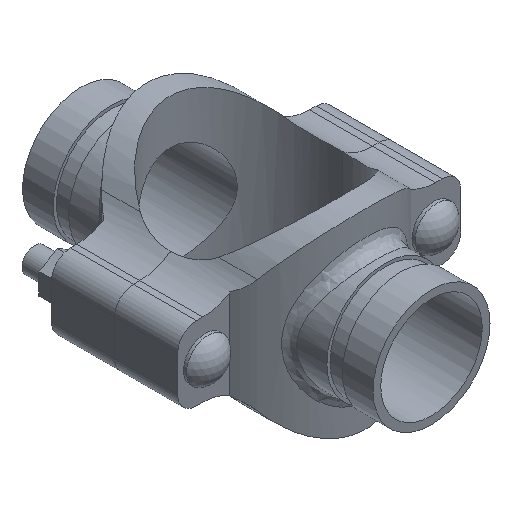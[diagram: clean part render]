
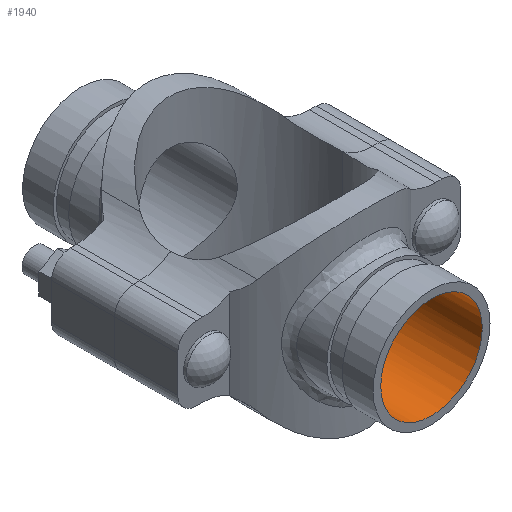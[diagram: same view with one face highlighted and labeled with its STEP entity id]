
A CAD part, isometric view. The second image highlights one B-rep face of the part: STEP entity #1940.
In plain terms, the highlighted cylindrical face has radius 26.194 mm (diameter 52.387 mm), a full revolution.
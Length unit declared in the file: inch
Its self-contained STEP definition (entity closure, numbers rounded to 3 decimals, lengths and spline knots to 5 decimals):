
#48=B_SPLINE_CURVE_WITH_KNOTS('',3,(#3844,#3845,#3846,#3847,#3848,#3849,
#3850,#3851,#3852,#3853,#3854,#3855,#3856,#3857,#3858,#3859,#3860,#3861,
#3862,#3863,#3864,#3865,#3866,#3867,#3868,#3869,#3870,#3871,#3872,#3873,
#3874,#3875,#3876,#3877,#3878,#3879,#3880,#3881,#3882,#3883,#3884,#3885,
#3886,#3887,#3888,#3889,#3890,#3891,#3892,#3893,#3894,#3895,#3896,#3897,
#3898,#3899,#3900,#3901,#3902,#3903,#3904,#3905,#3906,#3907,#3908,#3909),
 .UNSPECIFIED.,.T.,.F.,(4,2,2,2,2,2,2,2,2,2,2,2,2,2,2,2,2,2,2,2,2,2,2,2,
2,2,2,2,2,2,2,2,4),(0.,0.50978,1.01955,1.52933,
2.03911,2.54587,3.05263,3.5594,4.06616,
4.57293,5.07969,5.58646,6.09322,6.603,
7.11278,7.62255,8.13233,8.6421,9.15188,
9.66166,10.17143,10.6782,11.18496,11.69173,
12.19849,12.70526,13.21202,13.71879,14.22555,
14.73533,15.2451,15.75488,16.26466),
 .UNSPECIFIED.);
#91=CYLINDRICAL_SURFACE('',#2169,1.03125);
#206=FACE_OUTER_BOUND('',#326,.T.);
#326=EDGE_LOOP('',(#1552,#1553,#1554,#1555));
#474=LINE('',#3843,#620);
#620=VECTOR('',#2620,1.03125);
#716=CIRCLE('',#2170,1.03125);
#877=VERTEX_POINT('',#3840);
#878=VERTEX_POINT('',#3842);
#1116=EDGE_CURVE('',#877,#877,#716,.T.);
#1117=EDGE_CURVE('',#877,#878,#474,.T.);
#1118=EDGE_CURVE('',#878,#878,#48,.T.);
#1552=ORIENTED_EDGE('',*,*,#1116,.F.);
#1553=ORIENTED_EDGE('',*,*,#1117,.T.);
#1554=ORIENTED_EDGE('',*,*,#1118,.F.);
#1555=ORIENTED_EDGE('',*,*,#1117,.F.);
#1940=ADVANCED_FACE('',(#206),#91,.F.);
#2169=AXIS2_PLACEMENT_3D('',#3839,#2616,#2617);
#2170=AXIS2_PLACEMENT_3D('',#3841,#2618,#2619);
#2616=DIRECTION('center_axis',(0.,-1.,0.));
#2617=DIRECTION('ref_axis',(-1.,0.,0.));
#2618=DIRECTION('center_axis',(0.,-1.,0.));
#2619=DIRECTION('ref_axis',(-1.,0.,0.));
#2620=DIRECTION('',(0.,-1.,0.));
#3839=CARTESIAN_POINT('Origin',(0.,3.56,0.));
#3840=CARTESIAN_POINT('',(1.03125,3.56,0.));
#3841=CARTESIAN_POINT('Origin',(0.,3.56,0.));
#3842=CARTESIAN_POINT('',(1.03125,1.41387,0.));
#3843=CARTESIAN_POINT('',(1.03125,3.56,0.));
#3844=CARTESIAN_POINT('Ctrl Pts',(1.03125,1.41387,0.));
#3845=CARTESIAN_POINT('Ctrl Pts',(1.03125,1.41387,-0.0669));
#3846=CARTESIAN_POINT('Ctrl Pts',(1.02464,1.41876,-0.13527));
#3847=CARTESIAN_POINT('Ctrl Pts',(0.99766,1.43786,-0.26993));
#3848=CARTESIAN_POINT('Ctrl Pts',(0.9773,1.45202,-0.33622));
#3849=CARTESIAN_POINT('Ctrl Pts',(0.92428,1.48634,-0.46246));
#3850=CARTESIAN_POINT('Ctrl Pts',(0.89157,1.50647,-0.52254));
#3851=CARTESIAN_POINT('Ctrl Pts',(0.81654,1.54842,-0.63341));
#3852=CARTESIAN_POINT('Ctrl Pts',(0.7742,1.57021,-0.6842));
#3853=CARTESIAN_POINT('Ctrl Pts',(0.68447,1.61134,-0.77394));
#3854=CARTESIAN_POINT('Ctrl Pts',(0.63382,1.63225,-0.81623));
#3855=CARTESIAN_POINT('Ctrl Pts',(0.52291,1.67108,-0.89136));
#3856=CARTESIAN_POINT('Ctrl Pts',(0.46265,1.68899,-0.9242));
#3857=CARTESIAN_POINT('Ctrl Pts',(0.33601,1.71867,-0.97739));
#3858=CARTESIAN_POINT('Ctrl Pts',(0.26952,1.73045,-0.99778));
#3859=CARTESIAN_POINT('Ctrl Pts',(0.13476,1.74612,-1.02471));
#3860=CARTESIAN_POINT('Ctrl Pts',(0.0665,1.75,-1.03125));
#3861=CARTESIAN_POINT('Ctrl Pts',(-0.0665,1.75,-1.03125));
#3862=CARTESIAN_POINT('Ctrl Pts',(-0.13476,1.74612,-1.02471));
#3863=CARTESIAN_POINT('Ctrl Pts',(-0.26952,1.73045,-0.99778));
#3864=CARTESIAN_POINT('Ctrl Pts',(-0.33601,1.71867,-0.97739));
#3865=CARTESIAN_POINT('Ctrl Pts',(-0.46265,1.68899,-0.9242));
#3866=CARTESIAN_POINT('Ctrl Pts',(-0.52291,1.67108,-0.89136));
#3867=CARTESIAN_POINT('Ctrl Pts',(-0.63382,1.63225,-0.81623));
#3868=CARTESIAN_POINT('Ctrl Pts',(-0.68447,1.61134,-0.77394));
#3869=CARTESIAN_POINT('Ctrl Pts',(-0.7742,1.57021,-0.6842));
#3870=CARTESIAN_POINT('Ctrl Pts',(-0.81654,1.54842,-0.63341));
#3871=CARTESIAN_POINT('Ctrl Pts',(-0.89157,1.50647,-0.52254));
#3872=CARTESIAN_POINT('Ctrl Pts',(-0.92428,1.48634,-0.46246));
#3873=CARTESIAN_POINT('Ctrl Pts',(-0.9773,1.45202,-0.33622));
#3874=CARTESIAN_POINT('Ctrl Pts',(-0.99766,1.43786,-0.26993));
#3875=CARTESIAN_POINT('Ctrl Pts',(-1.02464,1.41876,-0.13527));
#3876=CARTESIAN_POINT('Ctrl Pts',(-1.03125,1.41387,-0.0669));
#3877=CARTESIAN_POINT('Ctrl Pts',(-1.03125,1.41387,0.0669));
#3878=CARTESIAN_POINT('Ctrl Pts',(-1.02464,1.41876,0.13527));
#3879=CARTESIAN_POINT('Ctrl Pts',(-0.99766,1.43786,0.26993));
#3880=CARTESIAN_POINT('Ctrl Pts',(-0.9773,1.45202,0.33622));
#3881=CARTESIAN_POINT('Ctrl Pts',(-0.92428,1.48634,0.46246));
#3882=CARTESIAN_POINT('Ctrl Pts',(-0.89157,1.50647,0.52254));
#3883=CARTESIAN_POINT('Ctrl Pts',(-0.81654,1.54842,0.63341));
#3884=CARTESIAN_POINT('Ctrl Pts',(-0.7742,1.57021,0.6842));
#3885=CARTESIAN_POINT('Ctrl Pts',(-0.68447,1.61134,0.77394));
#3886=CARTESIAN_POINT('Ctrl Pts',(-0.63382,1.63225,0.81623));
#3887=CARTESIAN_POINT('Ctrl Pts',(-0.52291,1.67108,0.89136));
#3888=CARTESIAN_POINT('Ctrl Pts',(-0.46265,1.68899,0.9242));
#3889=CARTESIAN_POINT('Ctrl Pts',(-0.33601,1.71867,0.97739));
#3890=CARTESIAN_POINT('Ctrl Pts',(-0.26952,1.73045,0.99778));
#3891=CARTESIAN_POINT('Ctrl Pts',(-0.13476,1.74612,1.02471));
#3892=CARTESIAN_POINT('Ctrl Pts',(-0.0665,1.75,1.03125));
#3893=CARTESIAN_POINT('Ctrl Pts',(0.0665,1.75,1.03125));
#3894=CARTESIAN_POINT('Ctrl Pts',(0.13476,1.74612,1.02471));
#3895=CARTESIAN_POINT('Ctrl Pts',(0.26952,1.73045,0.99778));
#3896=CARTESIAN_POINT('Ctrl Pts',(0.33601,1.71867,0.97739));
#3897=CARTESIAN_POINT('Ctrl Pts',(0.46265,1.68899,0.9242));
#3898=CARTESIAN_POINT('Ctrl Pts',(0.52291,1.67108,0.89136));
#3899=CARTESIAN_POINT('Ctrl Pts',(0.63382,1.63225,0.81623));
#3900=CARTESIAN_POINT('Ctrl Pts',(0.68447,1.61134,0.77394));
#3901=CARTESIAN_POINT('Ctrl Pts',(0.7742,1.57021,0.6842));
#3902=CARTESIAN_POINT('Ctrl Pts',(0.81654,1.54842,0.63341));
#3903=CARTESIAN_POINT('Ctrl Pts',(0.89157,1.50647,0.52254));
#3904=CARTESIAN_POINT('Ctrl Pts',(0.92428,1.48634,0.46246));
#3905=CARTESIAN_POINT('Ctrl Pts',(0.9773,1.45202,0.33622));
#3906=CARTESIAN_POINT('Ctrl Pts',(0.99766,1.43786,0.26993));
#3907=CARTESIAN_POINT('Ctrl Pts',(1.02464,1.41876,0.13527));
#3908=CARTESIAN_POINT('Ctrl Pts',(1.03125,1.41387,0.0669));
#3909=CARTESIAN_POINT('Ctrl Pts',(1.03125,1.41387,0.));
